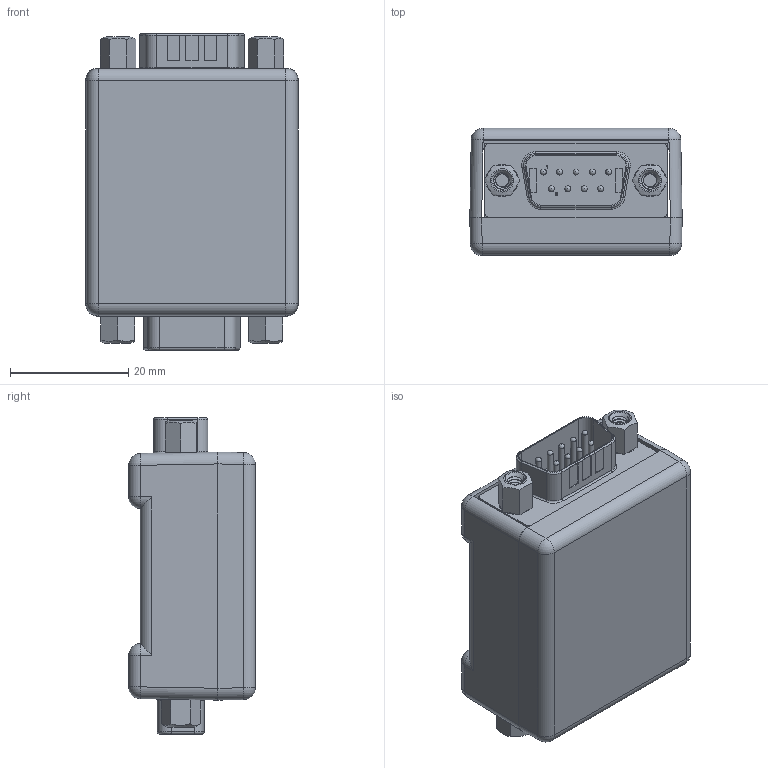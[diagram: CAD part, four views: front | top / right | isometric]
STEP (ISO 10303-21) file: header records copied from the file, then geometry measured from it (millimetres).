
FILE_DESCRIPTION(/* description */ (''),/* implementation_level */ '2;1');
FILE_NAME(/* name */ '/Users/leo/Desktop/Desktop - Leonardo’s MacBook Air/Coolgear May/DB9-TERS/DB9-TERS Model3D LPV1.step',/* time_stamp */ '2021-06-29T16:45:20-04:00',/* author */ (''),/* organization */ (''),/* preprocessor_version */ 'ST-DEVELOPER v18.1',/* originating_system */ 'Autodesk Translation Framework v10.9.0.1377',/* authorisation */ '');
FILE_SCHEMA (('AUTOMOTIVE_DESIGN { 1 0 10303 214 3 1 1 }'));
Products named in the file (1): FusionComponent
Bounding box: 35.87 x 21.47 x 53.43 mm (x, y, z)
Volume: 16509.5 mm3; surface area: 20043.8 mm2
Topology: 2 solids, 2 shells, 1316 faces, 3613 edges, 2325 vertices
Faces by surface type: plane 914, cylinder 287, sphere 42, bspline 39, cone 18, torus 16
Full cylindrical faces by diameter (mm): 1 x9, 1.2 x9, 2.221 x42, 2.845 x2, 2.998 x9, 3 x51, 3.643 x9, 5 x4, 5.48 x4
Entity records: 55797 total; most frequent: CARTESIAN_POINT 22736, ORIENTED_EDGE 7166, DIRECTION 6287, EDGE_CURVE 3583, LINE 2675, VECTOR 2675, VERTEX_POINT 2325, AXIS2_PLACEMENT_3D 1806
